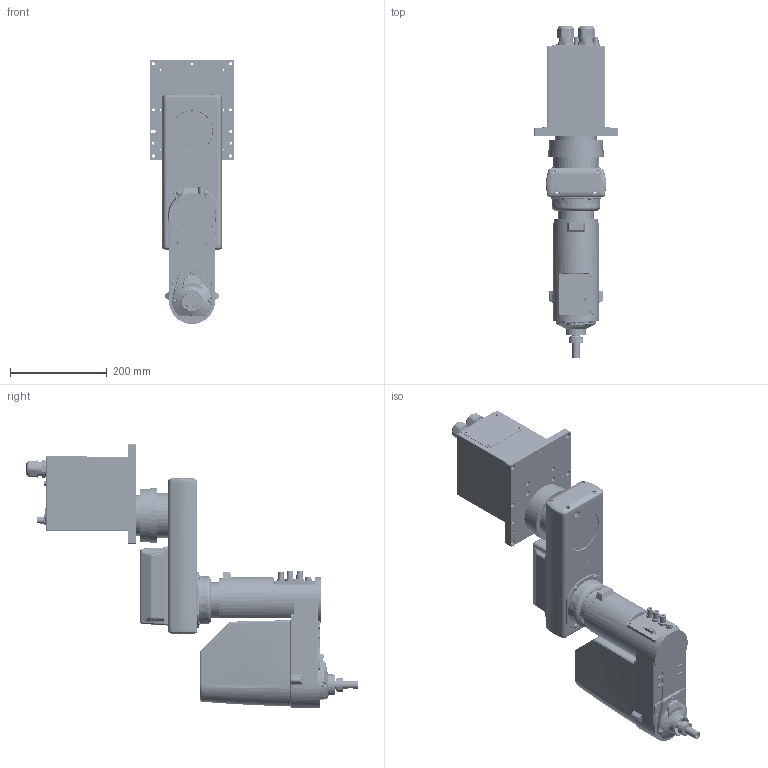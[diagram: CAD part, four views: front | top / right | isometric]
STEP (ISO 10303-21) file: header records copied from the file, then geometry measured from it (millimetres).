
FILE_DESCRIPTION((''),'2;1');
FILE_NAME('RS3_351S_ASM','2009-01-21T',('0179539'),(''),'PRO/ENGINEER BY PARAMETRIC TECHNOLOGY CORPORATION, 2006510','PRO/ENGINEER BY PARAMETRIC TECHNOLOGY CORPORATION, 2006510','');
FILE_SCHEMA(('AUTOMOTIVE_DESIGN_CC2 { 1 2 10303 214 -1 1 5 2 }'));
Length unit declared in the file: millimetre
Products named in the file (5): BASE; J1; J2; SHAFT; RS3_351S_ASM
Assembly tree (4 placements, depth 2):
  RS3_351S_ASM
    BASE
    J1
    J2
    SHAFT
Bounding box: 175 x 684 x 544.5 mm (x, y, z)
Volume: 2930833.7 mm3; surface area: 1329381.8 mm2
Topology: 9 solids, 11 shells, 5575 faces, 14464 edges, 9254 vertices
Faces by surface type: plane 3165, cylinder 1569, cone 365, bspline 312, torus 92, sphere 72
Entity records: 228391 total; most frequent: CARTESIAN_POINT 52934, ORIENTED_EDGE 28612, DIRECTION 27464, EDGE_CURVE 14306, VECTOR 9540, LINE 9540, VERTEX_POINT 9254, AXIS2_PLACEMENT_3D 8962
